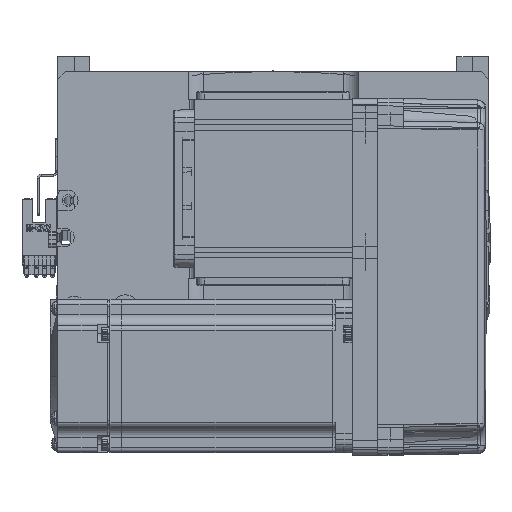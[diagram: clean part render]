
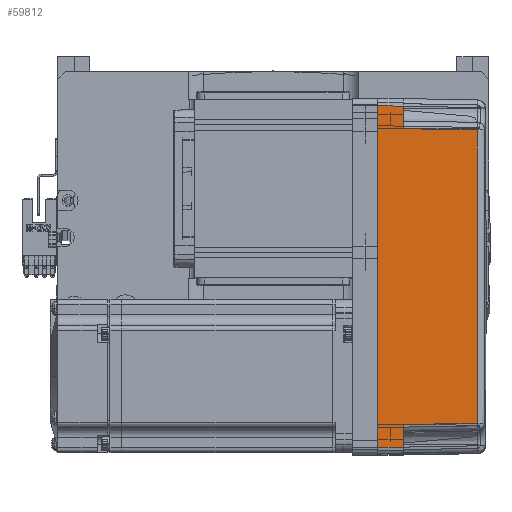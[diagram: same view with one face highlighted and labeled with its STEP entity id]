
A CAD part, top view. The second image highlights one B-rep face of the part: STEP entity #59812.
In plain terms, the highlighted planar face has unit normal (0.018, 0, 1) as drawn and (0, 1, 0.017) by its records, which use the part's own axes.
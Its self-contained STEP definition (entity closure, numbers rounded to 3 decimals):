
#20 = VERTEX_POINT ( 'NONE', #59368 ) ;
#802 = VERTEX_POINT ( 'NONE', #26393 ) ;
#3793 = LINE ( 'NONE', #62762, #58497 ) ;
#6234 = VECTOR ( 'NONE', #46480, 1000. ) ;
#6413 = VERTEX_POINT ( 'NONE', #46127 ) ;
#7022 = VERTEX_POINT ( 'NONE', #62540 ) ;
#7117 = CARTESIAN_POINT ( 'NONE',  ( 57.495, 35.32, 38.985 ) ) ;
#7825 = LINE ( 'NONE', #66745, #14508 ) ;
#8072 = DIRECTION ( 'NONE',  ( -0.017, -0.017, 1. ) ) ;
#8544 = CARTESIAN_POINT ( 'NONE',  ( 67.001, 36.001, -0.052 ) ) ;
#9116 = CARTESIAN_POINT ( 'NONE',  ( 70., 36., 0. ) ) ;
#9470 = VECTOR ( 'NONE', #33672, 1000. ) ;
#10293 = ORIENTED_EDGE ( 'NONE', *, *, #19154, .T. ) ;
#11652 = DIRECTION ( 'NONE',  ( 0.017, -0.017, 1. ) ) ;
#13467 = CARTESIAN_POINT ( 'NONE',  ( -19.165, 35.316, 39.181 ) ) ;
#14508 = VECTOR ( 'NONE', #40464, 1000. ) ;
#17037 = LINE ( 'NONE', #46246, #6234 ) ;
#17334 = CARTESIAN_POINT ( 'NONE',  ( -66.826, 35.825, 10. ) ) ;
#19154 = EDGE_CURVE ( 'NONE', #6413, #51609, #38424, .T. ) ;
#21886 = ORIENTED_EDGE ( 'NONE', *, *, #53663, .T. ) ;
#22541 = VECTOR ( 'NONE', #8072, 1000. ) ;
#24426 = DIRECTION ( 'NONE',  ( 0., -0.017, 1. ) ) ;
#24861 = DIRECTION ( 'NONE',  ( 0., 1., 0.017 ) ) ;
#24873 = DIRECTION ( 'NONE',  ( 0.017, -0.017, 1. ) ) ;
#25979 = CARTESIAN_POINT ( 'NONE',  ( 66.826, 35.825, 10. ) ) ;
#26393 = CARTESIAN_POINT ( 'NONE',  ( -58., 35.825, 10. ) ) ;
#26645 = ORIENTED_EDGE ( 'NONE', *, *, #31885, .F. ) ;
#27467 = EDGE_CURVE ( 'NONE', #7022, #67376, #17037, .T. ) ;
#30477 = VECTOR ( 'NONE', #40866, 1000. ) ;
#31616 = VECTOR ( 'NONE', #11652, 1000. ) ;
#31885 = EDGE_CURVE ( 'NONE', #67376, #51609, #36589, .T. ) ;
#33672 = DIRECTION ( 'NONE',  ( 1., 0., 0. ) ) ;
#35606 = FACE_OUTER_BOUND ( 'NONE', #50183, .T. ) ;
#36589 = LINE ( 'NONE', #8544, #22541 ) ;
#37560 = EDGE_CURVE ( 'NONE', #20, #67291, #47239, .T. ) ;
#38424 = LINE ( 'NONE', #65300, #9470 ) ;
#38691 = ORIENTED_EDGE ( 'NONE', *, *, #37560, .T. ) ;
#38994 = CARTESIAN_POINT ( 'NONE',  ( 57.495, 35.32, 38.985 ) ) ;
#39728 = CARTESIAN_POINT ( 'NONE',  ( 67., 36., 0. ) ) ;
#40464 = DIRECTION ( 'NONE',  ( 1., 0., 0. ) ) ;
#40866 = DIRECTION ( 'NONE',  ( 0.017, 0.017, -1. ) ) ;
#41226 = EDGE_CURVE ( 'NONE', #802, #20, #63844, .T. ) ;
#44056 = CARTESIAN_POINT ( 'NONE',  ( -58., 35.825, 10. ) ) ;
#44517 = EDGE_CURVE ( 'NONE', #67291, #6413, #47088, .T. ) ;
#45201 = CARTESIAN_POINT ( 'NONE',  ( -57.495, 35.32, 38.985 ) ) ;
#45729 = PLANE ( 'NONE',  #54845 ) ;
#46127 = CARTESIAN_POINT ( 'NONE',  ( 58., 35.825, 10. ) ) ;
#46246 = CARTESIAN_POINT ( 'NONE',  ( 0., 36., 0. ) ) ;
#46480 = DIRECTION ( 'NONE',  ( 1., 0., 0. ) ) ;
#46546 = VERTEX_POINT ( 'NONE', #17334 ) ;
#47088 = LINE ( 'NONE', #38994, #30477 ) ;
#47239 = B_SPLINE_CURVE_WITH_KNOTS ( 'NONE', 3,
 ( #45201, #13467, #50529, #55866 ),
 .UNSPECIFIED., .F., .F.,
 ( 4, 4 ),
 ( 0., 1. ),
 .UNSPECIFIED. ) ;
#50183 = EDGE_LOOP ( 'NONE', ( #21886, #66418, #62487, #38691, #55637, #10293, #26645, #59893 ) ) ;
#50529 = CARTESIAN_POINT ( 'NONE',  ( 19.165, 35.316, 39.181 ) ) ;
#51609 = VERTEX_POINT ( 'NONE', #25979 ) ;
#53663 = EDGE_CURVE ( 'NONE', #7022, #46546, #3793, .T. ) ;
#54845 = AXIS2_PLACEMENT_3D ( 'NONE', #9116, #24861, #24426 ) ;
#55637 = ORIENTED_EDGE ( 'NONE', *, *, #44517, .T. ) ;
#55866 = CARTESIAN_POINT ( 'NONE',  ( 57.495, 35.32, 38.985 ) ) ;
#57091 = EDGE_CURVE ( 'NONE', #46546, #802, #7825, .T. ) ;
#58497 = VECTOR ( 'NONE', #24873, 1000. ) ;
#59368 = CARTESIAN_POINT ( 'NONE',  ( -57.495, 35.32, 38.985 ) ) ;
#59812 = ADVANCED_FACE ( 'NONE', ( #35606 ), #45729, .T. ) ;
#59893 = ORIENTED_EDGE ( 'NONE', *, *, #27467, .F. ) ;
#62487 = ORIENTED_EDGE ( 'NONE', *, *, #41226, .T. ) ;
#62540 = CARTESIAN_POINT ( 'NONE',  ( -67., 36., 0. ) ) ;
#62762 = CARTESIAN_POINT ( 'NONE',  ( -67., 36., 0. ) ) ;
#63844 = LINE ( 'NONE', #44056, #31616 ) ;
#65300 = CARTESIAN_POINT ( 'NONE',  ( 70., 35.825, 10. ) ) ;
#66418 = ORIENTED_EDGE ( 'NONE', *, *, #57091, .T. ) ;
#66745 = CARTESIAN_POINT ( 'NONE',  ( 70., 35.825, 10. ) ) ;
#67291 = VERTEX_POINT ( 'NONE', #7117 ) ;
#67376 = VERTEX_POINT ( 'NONE', #39728 ) ;
